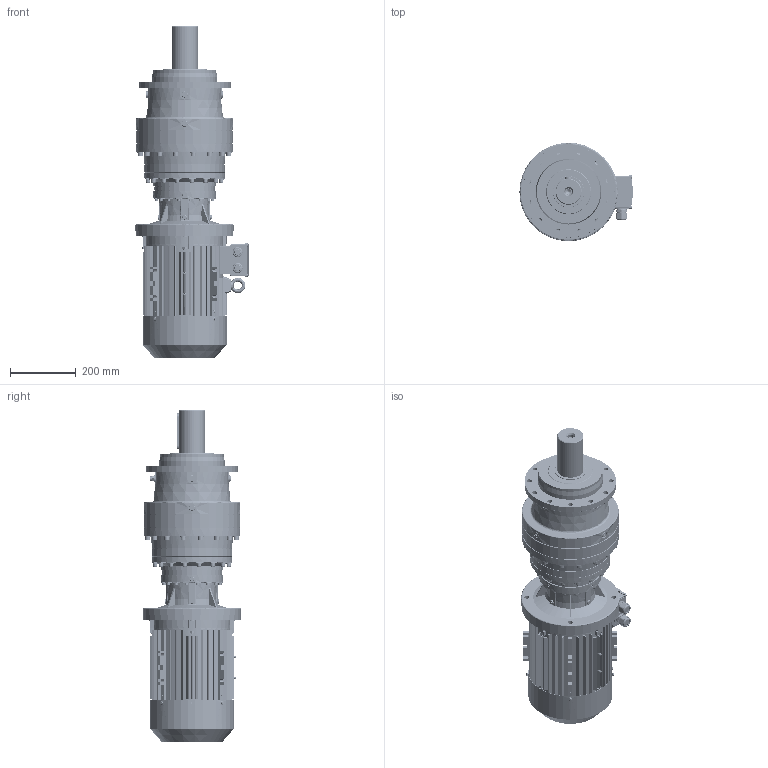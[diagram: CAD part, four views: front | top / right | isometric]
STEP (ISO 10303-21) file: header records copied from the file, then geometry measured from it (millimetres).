
FILE_DESCRIPTION (( 'STEP AP203' ), '1' );
FILE_NAME ('PVL_1903L-132S-4.STEP', '2019-05-10T11:01:41', ( '' ), ( '' ), 'SwSTEP 2.0', 'SolidWorks 2012', '' );
FILE_SCHEMA (( 'CONFIG_CONTROL_DESIGN' ));
Products named in the file (36): MX3-132S_B5; PVL_1903L-132S-4; plain parallel keys_GB_CONNECTING_PIECE_KEYS_CSK 10X70_1; DMX-IE3 132S4 fan_1; cross recessed pan head screws gb_GB_CROSS_SCREWS_TYPE1 M5X8-8  H type-N_1; cross recessed pan head screws gb_GB_CROSS_SCREWS_TYPE1 M5X25-25  H type-N_1; eyebolts gb_GB_FASTENER_SCREWS_FRS M10-S_1; plain washers--product grade c gb_GB_FASTENER_WASHER_SMWC 4_1; hexagon socket head cap screws gb_GB_FASTENER_SCREWS_HSHCS M8X45-N; cross recessed pan head screws gb_GB_CROSS_SCREWS_TYPE1 M4X6-6  H type-N_1; DMX-IE3 132S4 grouding mark_1; circlips for shaft--type a large gb_GB_CONNECTING_PIECE_RING_RRA 29_1; DMX-IE3 132S4  oil seal_1; DMX-IE3 132S4  cable glands_1; DMX-IE3 132S4   gasket for terminal box cover_1; DMX-IE3 132S4  connection board_1; DMX-IE3 132S4   gasket for terminal box base_1; cross recessed pan head screws gb_GB_CROSS_SCREWS_TYPE1 M5X10-10  H type-N_1; hexagon nuts grade c gb_GB_FASTENER_NUT_SNC1 M8-N_1; hexagon socket head cap screws gb_GB_FASTENER_SCREWS_HSHCS M8X35-N_1; spring lock washers--normal type gb_GB_FASTENER_WASHER_SW 8_1; DMX-IE3 132S4  terminal box_1; hex flange bolts-heavy grade b gb_GB_FASTENER_BOLT_HFBB M5X10-N_1; DMX-IE3 132S4   fan cover_1; DMX-IE3 132S4  flange B3_1; DMX-IE3 132S4   rotor1_1; DMX-IE3 132S4   terminal box cover_1; DMX-IE3 132S4   rotor2_1; PNL_1903L_0_0_A13_B5_ML25A_FL5A_0_0_0_0_0_0_0_0_0_0_0_M1; DMX-IE3 132S4  flange B5; DMX-IE3 132S4  casing_1; ML25A_Varsayìlan; 11132B5_Varsayìlan; FL5A_Varsayìlan; EK1903L_Varsayìlan; P19_Varsayìlan
Assembly tree (67 placements, depth 3):
  PVL_1903L-132S-4
    PNL_1903L_0_0_A13_B5_ML25A_FL5A_0_0_0_0_0_0_0_0_0_0_0_M1
      P19_Varsayìlan
      11132B5_Varsayìlan
      ML25A_Varsayìlan
      EK1903L_Varsayìlan
      FL5A_Varsayìlan
    MX3-132S_B5
      DMX-IE3 132S4  casing_1
      DMX-IE3 132S4  flange B5
      DMX-IE3 132S4  flange B3_1
      DMX-IE3 132S4   rotor1_1
      DMX-IE3 132S4   rotor2_1
      DMX-IE3 132S4   terminal box cover_1
      DMX-IE3 132S4  terminal box_1
      DMX-IE3 132S4   fan cover_1
      hex flange bolts-heavy grade b gb_GB_FASTENER_BOLT_HFBB M5X10-N_1  x4
      cross recessed pan head screws gb_GB_CROSS_SCREWS_TYPE1 M5X10-10  H type-N_1  x4
      hexagon nuts grade c gb_GB_FASTENER_NUT_SNC1 M8-N_1  x7
      spring lock washers--normal type gb_GB_FASTENER_WASHER_SW 8_1  x8
      hexagon socket head cap screws gb_GB_FASTENER_SCREWS_HSHCS M8X35-N_1  x5
      DMX-IE3 132S4   gasket for terminal box base_1
      DMX-IE3 132S4  connection board_1
      DMX-IE3 132S4   gasket for terminal box cover_1
      DMX-IE3 132S4  oil seal_1
      DMX-IE3 132S4  cable glands_1  x2
      circlips for shaft--type a large gb_GB_CONNECTING_PIECE_RING_RRA 29_1
      DMX-IE3 132S4 grouding mark_1
      cross recessed pan head screws gb_GB_CROSS_SCREWS_TYPE1 M4X6-6  H type-N_1  x3
      eyebolts gb_GB_FASTENER_SCREWS_FRS M10-S_1
      plain washers--product grade c gb_GB_FASTENER_WASHER_SMWC 4_1
      hexagon socket head cap screws gb_GB_FASTENER_SCREWS_HSHCS M8X45-N  x3
      DMX-IE3 132S4 fan_1
      cross recessed pan head screws gb_GB_CROSS_SCREWS_TYPE1 M5X25-25  H type-N_1  x2
      cross recessed pan head screws gb_GB_CROSS_SCREWS_TYPE1 M5X8-8  H type-N_1  x4
      plain parallel keys_GB_CONNECTING_PIECE_KEYS_CSK 10X70_1
Bounding box: 345 x 300 x 1012.7 mm (x, y, z)
Volume: 27113015.5 mm3; surface area: 2780578.6 mm2
Topology: 76 solids, 78 shells, 6906 faces, 18456 edges, 11870 vertices
Faces by surface type: plane 3809, cylinder 1893, bspline 614, cone 590
Entity records: 222350 total; most frequent: CARTESIAN_POINT 60842, ORIENTED_EDGE 33356, DIRECTION 32132, EDGE_CURVE 16678, AXIS2_PLACEMENT_3D 11266, VERTEX_POINT 10832, VECTOR 9600, LINE 9600
